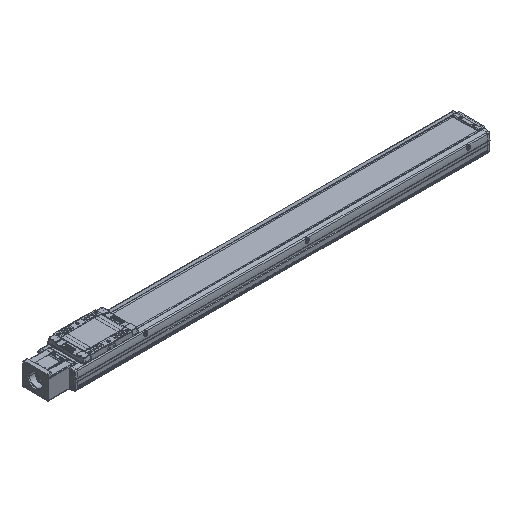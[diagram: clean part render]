
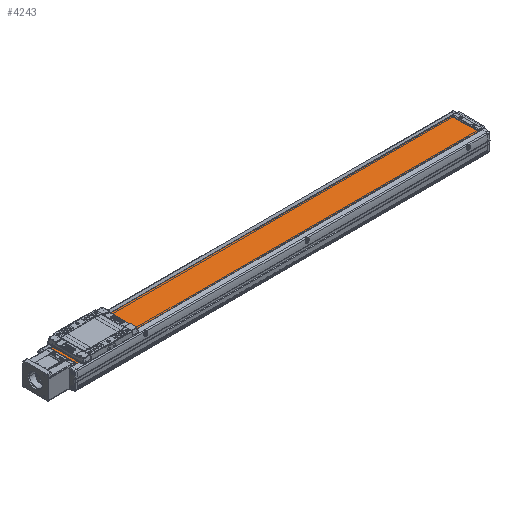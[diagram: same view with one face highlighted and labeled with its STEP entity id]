
A CAD part, isometric view. The second image highlights one B-rep face of the part: STEP entity #4243.
In plain terms, the highlighted planar face has unit normal (0, 0, 1).
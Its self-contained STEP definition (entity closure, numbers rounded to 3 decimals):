
#4243=ADVANCED_FACE('',(#10276),#10277,.T.);
#10276=FACE_OUTER_BOUND('',#18693,.T.);
#10277=PLANE('',#18694);
#18693=EDGE_LOOP('',(#31064,#31065,#31066,#31067));
#18694=AXIS2_PLACEMENT_3D('',#31068,#31069,#31070);
#31064=ORIENTED_EDGE('',*,*,#52163,.T.);
#31065=ORIENTED_EDGE('',*,*,#52164,.F.);
#31066=ORIENTED_EDGE('',*,*,#52165,.T.);
#31067=ORIENTED_EDGE('',*,*,#48899,.T.);
#31068=CARTESIAN_POINT('',(-580.,0.,20.15));
#31069=DIRECTION('',(0.,0.,1.0));
#31070=DIRECTION('',(0.,-1.0,0.));
#48899=EDGE_CURVE('',#58236,#58234,#58237,.T.);
#52163=EDGE_CURVE('',#58234,#63823,#63824,.T.);
#52164=EDGE_CURVE('',#63825,#63823,#63826,.T.);
#52165=EDGE_CURVE('',#63825,#58236,#63827,.T.);
#58234=VERTEX_POINT('',#72004);
#58236=VERTEX_POINT('',#72007);
#58237=LINE('',#72008,#72009);
#63823=VERTEX_POINT('',#79821);
#63824=LINE('',#79822,#79823);
#63825=VERTEX_POINT('',#79824);
#63826=LINE('',#79825,#79826);
#63827=LINE('',#79827,#79828);
#72004=CARTESIAN_POINT('',(500.,-35.,20.15));
#72007=CARTESIAN_POINT('',(-580.,-35.,20.15));
#72008=CARTESIAN_POINT('',(-580.,-35.,20.15));
#72009=VECTOR('',#90935,10.0);
#79821=CARTESIAN_POINT('',(500.,35.,20.15));
#79822=CARTESIAN_POINT('',(500.,35.,20.15));
#79823=VECTOR('',#95741,10.0);
#79824=CARTESIAN_POINT('',(-580.,35.,20.15));
#79825=CARTESIAN_POINT('',(-580.,35.,20.15));
#79826=VECTOR('',#95742,10.0);
#79827=CARTESIAN_POINT('',(-580.,35.,20.15));
#79828=VECTOR('',#95743,10.0);
#90935=DIRECTION('',(1.0,0.,0.));
#95741=DIRECTION('',(0.,1.0,0.));
#95742=DIRECTION('',(1.0,0.,0.));
#95743=DIRECTION('',(0.,-1.0,0.));
